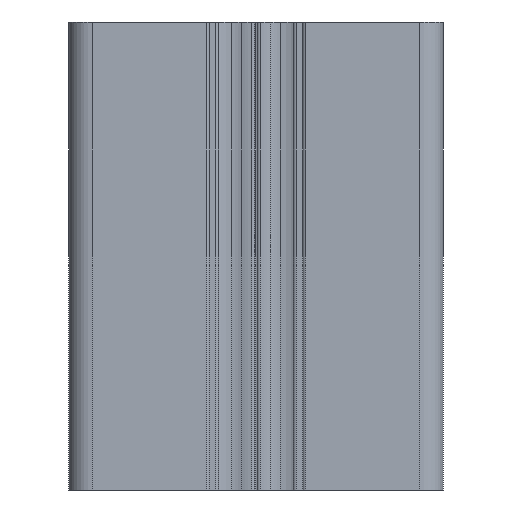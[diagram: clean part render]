
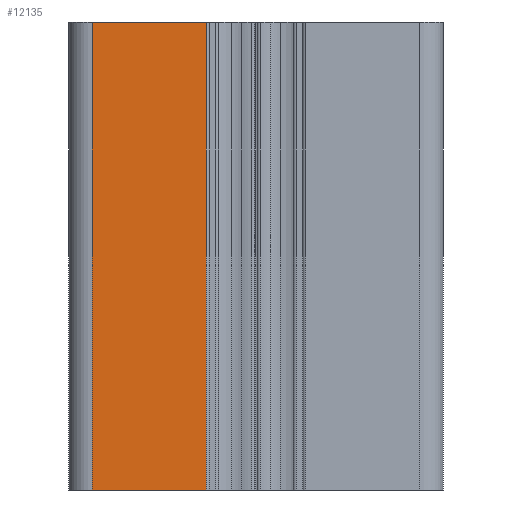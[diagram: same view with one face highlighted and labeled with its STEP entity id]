
A CAD part, left-side view. The second image highlights one B-rep face of the part: STEP entity #12135.
In plain terms, the highlighted planar face has unit normal (-1, 0, 0).
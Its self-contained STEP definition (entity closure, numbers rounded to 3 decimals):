
#476 = ORIENTED_EDGE ( 'NONE', *, *, #7369, .F. ) ;
#1717 = EDGE_CURVE ( 'NONE', #2422, #9034, #5343, .T. ) ;
#1785 = PLANE ( 'NONE',  #6686 ) ;
#2422 = VERTEX_POINT ( 'NONE', #3768 ) ;
#2750 = DIRECTION ( 'NONE',  ( -1., 0., 0. ) ) ;
#2832 = VECTOR ( 'NONE', #6768, 1000. ) ;
#2982 = CARTESIAN_POINT ( 'NONE',  ( 461.51, 208.511, 0. ) ) ;
#3259 = CARTESIAN_POINT ( 'NONE',  ( 461.51, 208.511, 50. ) ) ;
#3623 = CARTESIAN_POINT ( 'NONE',  ( 461.51, 208.511, 0. ) ) ;
#3768 = CARTESIAN_POINT ( 'NONE',  ( 461.51, 220.711, 50. ) ) ;
#4695 = ORIENTED_EDGE ( 'NONE', *, *, #5848, .T. ) ;
#5243 = DIRECTION ( 'NONE',  ( 0., 0., 1. ) ) ;
#5343 = LINE ( 'NONE', #8914, #9533 ) ;
#5479 = EDGE_CURVE ( 'NONE', #10888, #6481, #6413, .T. ) ;
#5484 = VECTOR ( 'NONE', #9615, 1000. ) ;
#5848 = EDGE_CURVE ( 'NONE', #9034, #10888, #5968, .T. ) ;
#5968 = LINE ( 'NONE', #2982, #2832 ) ;
#6320 = FACE_OUTER_BOUND ( 'NONE', #11021, .T. ) ;
#6413 = LINE ( 'NONE', #10100, #6560 ) ;
#6481 = VERTEX_POINT ( 'NONE', #3259 ) ;
#6560 = VECTOR ( 'NONE', #5243, 1000. ) ;
#6686 = AXIS2_PLACEMENT_3D ( 'NONE', #3623, #2750, #11392 ) ;
#6768 = DIRECTION ( 'NONE',  ( 0., -1., 0. ) ) ;
#7109 = CARTESIAN_POINT ( 'NONE',  ( 461.51, 220.711, 0. ) ) ;
#7361 = CARTESIAN_POINT ( 'NONE',  ( 461.51, 208.511, 0. ) ) ;
#7369 = EDGE_CURVE ( 'NONE', #2422, #6481, #10443, .T. ) ;
#7711 = CARTESIAN_POINT ( 'NONE',  ( 461.51, 220.711, 50. ) ) ;
#8540 = ORIENTED_EDGE ( 'NONE', *, *, #1717, .T. ) ;
#8914 = CARTESIAN_POINT ( 'NONE',  ( 461.51, 220.711, 0. ) ) ;
#9034 = VERTEX_POINT ( 'NONE', #7109 ) ;
#9533 = VECTOR ( 'NONE', #11033, 1000. ) ;
#9615 = DIRECTION ( 'NONE',  ( 0., -1., 0. ) ) ;
#9638 = ORIENTED_EDGE ( 'NONE', *, *, #5479, .T. ) ;
#10100 = CARTESIAN_POINT ( 'NONE',  ( 461.51, 208.511, 0. ) ) ;
#10443 = LINE ( 'NONE', #7711, #5484 ) ;
#10888 = VERTEX_POINT ( 'NONE', #7361 ) ;
#11021 = EDGE_LOOP ( 'NONE', ( #9638, #476, #8540, #4695 ) ) ;
#11033 = DIRECTION ( 'NONE',  ( 0., 0., -1. ) ) ;
#11392 = DIRECTION ( 'NONE',  ( 0., -1., 0. ) ) ;
#12135 = ADVANCED_FACE ( 'NONE', ( #6320 ), #1785, .T. ) ;
